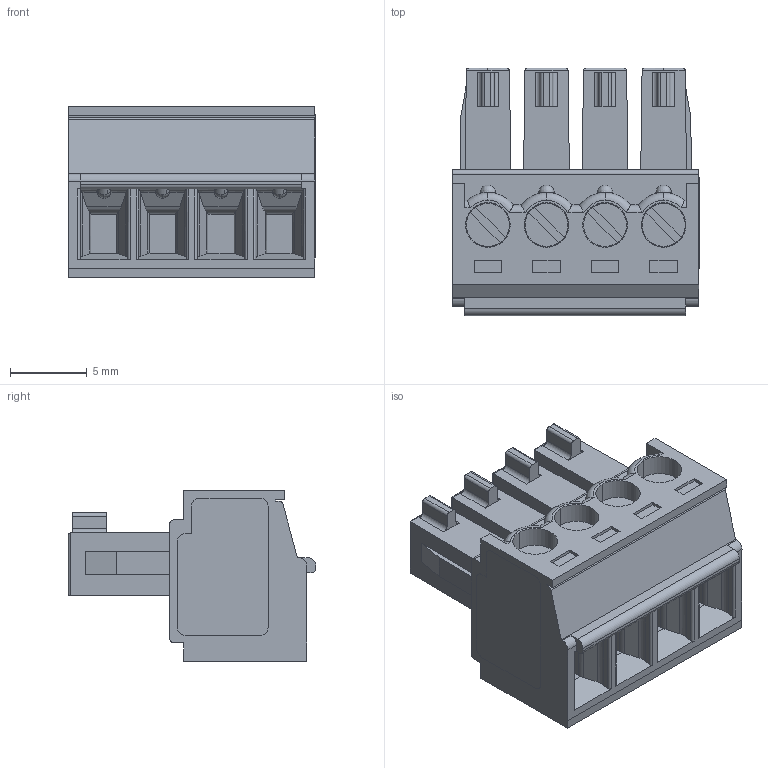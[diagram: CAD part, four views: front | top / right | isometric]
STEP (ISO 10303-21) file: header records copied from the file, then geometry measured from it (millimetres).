
FILE_DESCRIPTION(('STEP AP214'),'1');
FILE_NAME('cctmp_B3B8C04E-353E-4AC2-A3F4-F4631DBDBACE_2023_01_30_07_39_52_0401_5400..stp','2023-01-30T07:39:52',('PHOENIX CONTACT Deutschland GmbH'),('CADClick - www.CADClick.com'),'Spatial InterOp 3D',' ','unknown authorization');
FILE_SCHEMA(('AUTOMOTIVE_DESIGN'));
Length unit declared in the file: millimetre
Products named in the file (14): 2023_01_30_07_39_51_0790; 2023_01_30_07_39_52_0401; 2023_01_30_07_39_52_0385; 2023_01_30_07_39_52_0370; 2023_01_30_07_39_52_0354; 2023_01_30_07_39_52_0338; 2023_01_30_07_39_52_0323; 2023_01_30_07_39_52_0307; 2023_01_30_07_39_52_0291; 2023_01_30_07_39_52_0276; 2023_01_30_07_39_52_0260; 2023_01_30_07_39_52_0245; 2023_01_30_07_39_52_0229; 2023_01_30_07_39_52_0198
Assembly tree (13 placements, depth 2):
  2023_01_30_07_39_51_0790
    2023_01_30_07_39_52_0401
    2023_01_30_07_39_52_0385
    2023_01_30_07_39_52_0370
    2023_01_30_07_39_52_0354
    2023_01_30_07_39_52_0338
    2023_01_30_07_39_52_0323
    2023_01_30_07_39_52_0307
    2023_01_30_07_39_52_0291
    2023_01_30_07_39_52_0276
    2023_01_30_07_39_52_0260
    2023_01_30_07_39_52_0245
    2023_01_30_07_39_52_0229
    2023_01_30_07_39_52_0198
Bounding box: 16.06 x 16.1 x 11.1 mm (x, y, z)
Volume: 1384.4 mm3; surface area: 2877 mm2
Topology: 13 solids, 13 shells, 776 faces, 2098 edges, 1363 vertices
Faces by surface type: plane 504, cylinder 220, cone 24, torus 16, sphere 12
Entity records: 35044 total; most frequent: CARTESIAN_POINT 6815, ORIENTED_EDGE 4164, DIRECTION 4133, EDGE_CURVE 2082, LINE 1483, VECTOR 1483, VERTEX_POINT 1363, AXIS2_PLACEMENT_3D 1325
